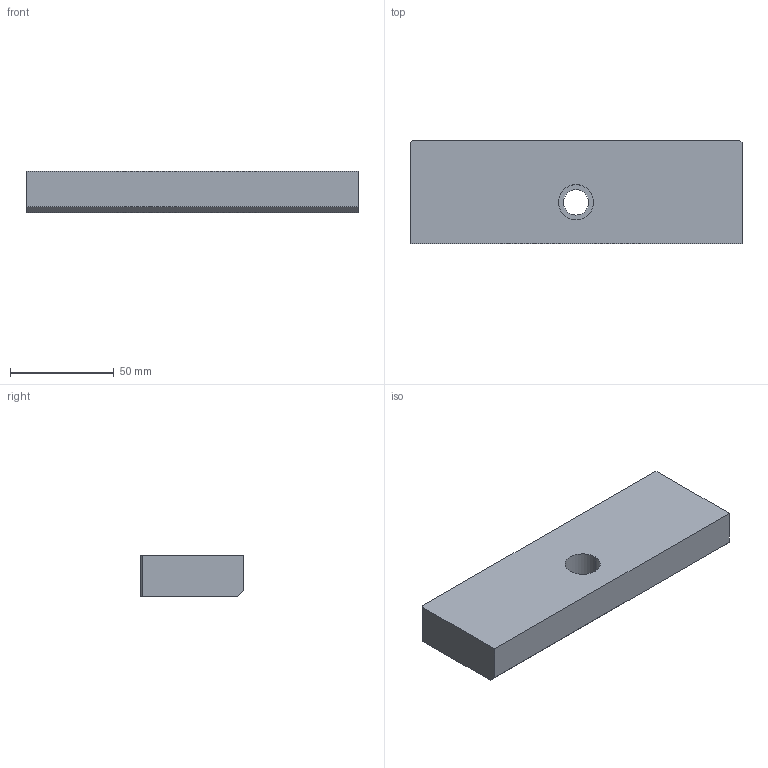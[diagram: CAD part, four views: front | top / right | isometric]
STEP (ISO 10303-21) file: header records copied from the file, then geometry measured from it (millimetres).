
FILE_DESCRIPTION (( 'STEP AP214' ), '1' );
FILE_NAME ('6921034022031.STEP', '2016-02-12T12:49:41', ( '' ), ( '' ), 'SwSTEP 2.0', 'SolidWorks 2015', '' );
FILE_SCHEMA (( 'AUTOMOTIVE_DESIGN' ));
Length unit declared in the file: millimetre
Products named in the file (1): 6921034022031
Bounding box: 160 x 50 x 20 mm (x, y, z)
Volume: 155601 mm3; surface area: 24798.1 mm2
Topology: 1 solids, 1 shells, 14 faces, 33 edges, 22 vertices
Faces by surface type: plane 10, cylinder 4
Entity records: 443 total; most frequent: DIRECTION 71, CARTESIAN_POINT 70, ORIENTED_EDGE 66, EDGE_CURVE 33, VECTOR 25, LINE 25, AXIS2_PLACEMENT_3D 23, VERTEX_POINT 22
